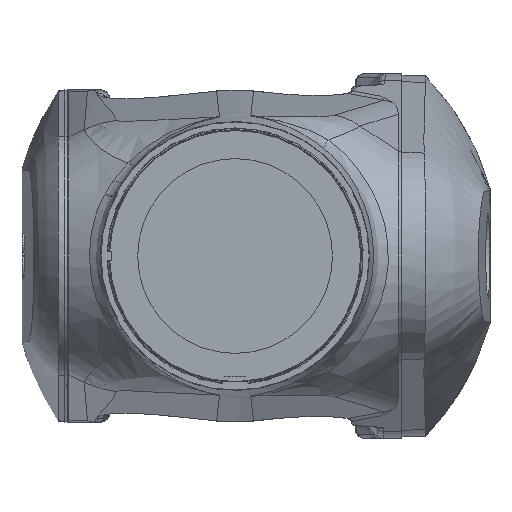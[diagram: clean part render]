
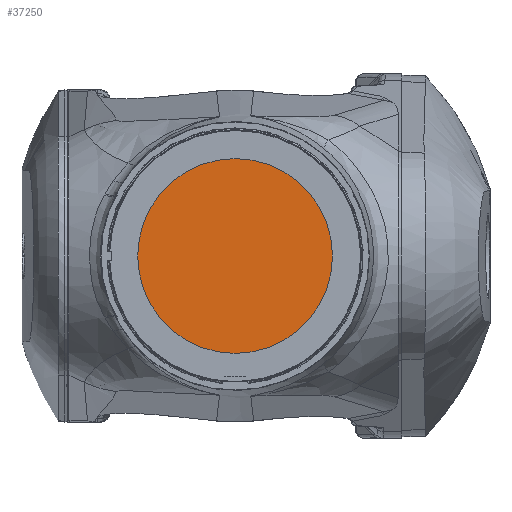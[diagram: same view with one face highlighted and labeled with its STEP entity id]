
A CAD part, left-side view. The second image highlights one B-rep face of the part: STEP entity #37250.
In plain terms, the highlighted planar face has unit normal (-1, 0, 0).
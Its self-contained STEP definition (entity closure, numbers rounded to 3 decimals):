
#1773 = EDGE_CURVE ( 'NONE', #14250, #14250, #38054, .T. ) ;
#3186 = DIRECTION ( 'NONE',  ( -1., 0., 0. ) ) ;
#3373 = DIRECTION ( 'NONE',  ( 0., -1., 0. ) ) ;
#4106 = AXIS2_PLACEMENT_3D ( 'NONE', #36071, #3186, #3373 ) ;
#10267 = DIRECTION ( 'NONE',  ( 0., -1., 0. ) ) ;
#11342 = CARTESIAN_POINT ( 'NONE',  ( 197., -85., 2205. ) ) ;
#13926 = ORIENTED_EDGE ( 'NONE', *, *, #1773, .T. ) ;
#14250 = VERTEX_POINT ( 'NONE', #11342 ) ;
#22035 = FACE_OUTER_BOUND ( 'NONE', #29945, .T. ) ;
#22236 = DIRECTION ( 'NONE',  ( -1., 0., 0. ) ) ;
#22790 = CARTESIAN_POINT ( 'NONE',  ( 197., 0., 2205. ) ) ;
#28366 = AXIS2_PLACEMENT_3D ( 'NONE', #22790, #22236, #10267 ) ;
#29945 = EDGE_LOOP ( 'NONE', ( #13926 ) ) ;
#36071 = CARTESIAN_POINT ( 'NONE',  ( 197., 0., 2205. ) ) ;
#36755 = PLANE ( 'NONE',  #28366 ) ;
#37250 = ADVANCED_FACE ( 'NONE', ( #22035 ), #36755, .T. ) ;
#38054 = CIRCLE ( 'NONE', #4106, 85. ) ;
